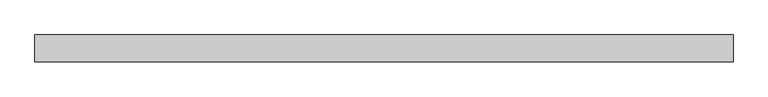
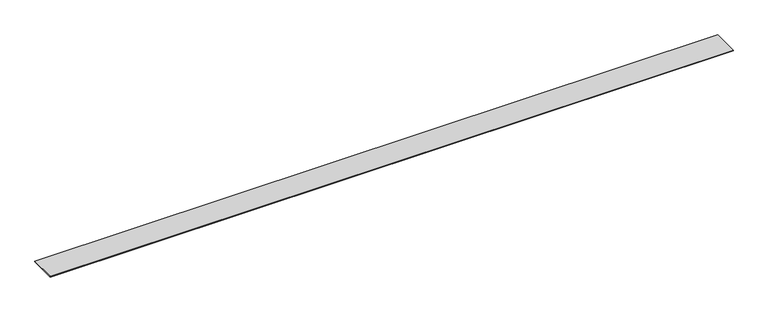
"""IFC4 building model written with IfcOpenShell, lengths in millimetres: furniture geometry, Geiger_GeigerOneCasegoods_WallTopTrimDoubleSidedWall : 96Wx3.75Dx0.125H."""

from ifc_helpers import new_model, si_unit, origin, origin_with_axes, place, context, project, spatial, polyline, outline, extrude, source, transform, mapped, element, save


def furniture_07ebbf5c(model_context):
    return source(origin(), model_context, "Body", "SweptSolid", [
        extrude(outline(polyline([(2438.4, 46.99), (2438.4, -46.99), (0.0, -46.99), (0.0, 46.99), (2438.4, 46.99)])), origin_with_axes(), (0.0, 0.0, 1.0), 3.2004),
    ])


if __name__ == "__main__":
    model = new_model("IFC4")
    model_context = context("Model", 3, world=origin())
    ifc_project = project(units=[si_unit("LENGTHUNIT", "METRE", prefix="MILLI")], contexts=[model_context])
    site = spatial("IfcSite", under=ifc_project)
    building = spatial("IfcBuilding", under=site)
    placement = place(None, origin())
    furniture_shape = furniture_07ebbf5c(model_context)
    element("IfcFurniture", 1, ObjectType="Geiger_GeigerOneCasegoods_WallTopTrimDoubleSidedWall : 96Wx3.75Dx0.125H", at=placement, inside=building, context=model_context, shape_type="MappedRepresentation", body=[
        mapped(furniture_shape, transform((0.0, 0.0, 0.0), x_axis=(1.0, 0.0, 0.0), y_axis=(0.0, 1.0, 0.0), z_axis=(0.0, 0.0, 1.0))),
    ])
    save(model, "model.ifc")
